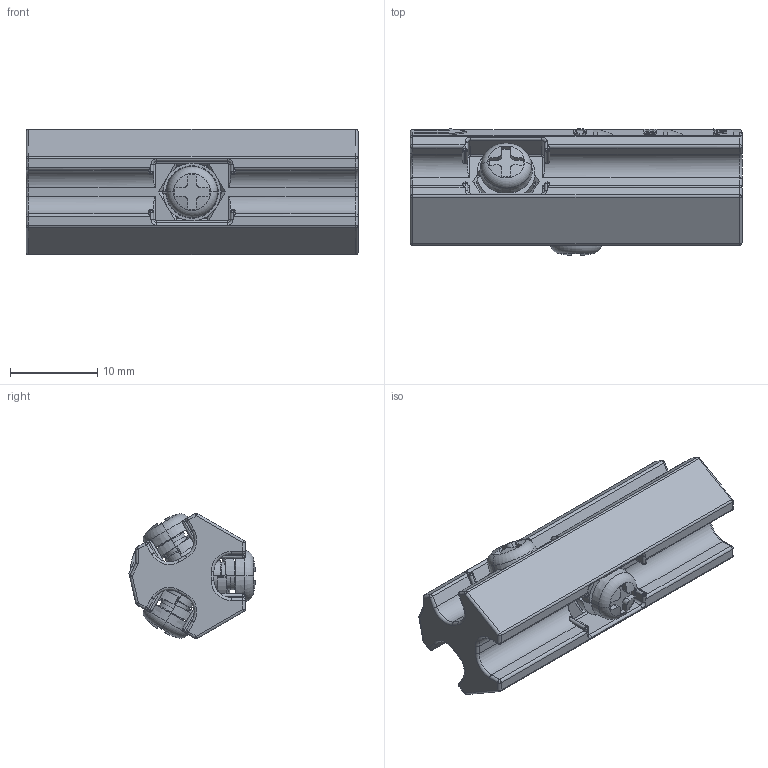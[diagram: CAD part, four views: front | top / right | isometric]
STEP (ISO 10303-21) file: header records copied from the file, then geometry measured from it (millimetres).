
FILE_DESCRIPTION(('Creo Elements/Direct Modeling STEP Export'),'2;1');
FILE_NAME('H05-0002-CL925_QW-J3.stp','2013-07-24T11:53:54',(''),(''),'Creo Elements/Direct Modeling STEP processor for AP214 (Solid Model)','Creo Elements/Direct Modeling 18.1B 29-Sep-2012 (C) Parametric Technology GmbH','');
FILE_SCHEMA(('AUTOMOTIVE_DESIGN { 1 0 10303 214 1 1 1 1 }'));
Length unit declared in the file: millimetre
Products named in the file (14): QW-J3本体_ゲージ付; Ｍ3.5_ねじA; M3.5_ナットA; M3.5_バネ座金A; A; Ｍ3.5_ねじC; M3.5_ナットC; M3.5_バネ座金C; C; Ｍ3.5_ねじB; M3.5_ナットB; M3.5_バネ座金B; B; QW-J3
Assembly tree (13 placements, depth 3):
  QW-J3
    B
      M3.5_バネ座金B
      M3.5_ナットB
      Ｍ3.5_ねじB
    C
      M3.5_バネ座金C
      M3.5_ナットC
      Ｍ3.5_ねじC
    A
      M3.5_バネ座金A
      M3.5_ナットA
      Ｍ3.5_ねじA
    QW-J3本体_ゲージ付
Bounding box: 38 x 14.49 x 14.39 mm (x, y, z)
Volume: 3382.3 mm3; surface area: 3644 mm2
Topology: 10 solids, 10 shells, 813 faces, 2012 edges, 1206 vertices
Faces by surface type: plane 335, cylinder 257, bspline 78, cone 56, torus 55, sphere 32
Entity records: 29038 total; most frequent: CARTESIAN_POINT 10698, ORIENTED_EDGE 3972, DIRECTION 3367, EDGE_CURVE 1986, VERTEX_POINT 1206, AXIS2_PLACEMENT_3D 1149, VECTOR 1069, LINE 1069
